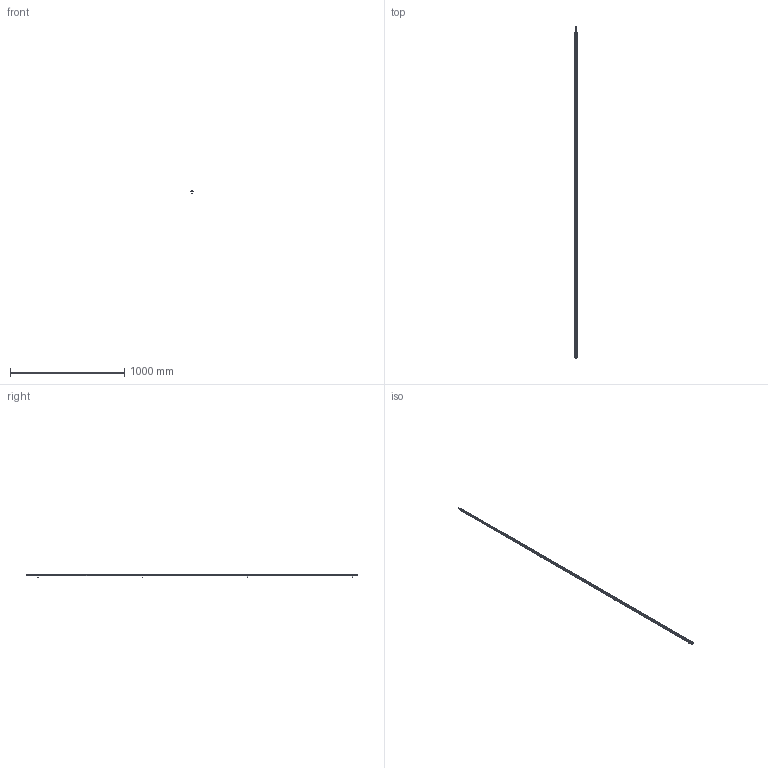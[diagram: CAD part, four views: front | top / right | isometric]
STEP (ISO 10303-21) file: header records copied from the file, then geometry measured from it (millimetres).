
FILE_DESCRIPTION (( 'STEP AP214' ), '1' );
FILE_NAME ('ILGA-B-K2-2850mm.STEP', '2026-04-24T23:06:02', ( '' ), ( '' ), 'SwSTEP 2.0', 'SolidWorks 2025', '' );
FILE_SCHEMA (( 'AUTOMOTIVE_DESIGN' ));
Length unit declared in the file: millimetre
Products named in the file (1): ILGA-B-K2-2850mm
Bounding box: 22.4 x 2904.5 x 25.7 mm (x, y, z)
Surface area: 387428.9 mm2 (no closed solid volume)
Topology: 0 solids, 17 shells, 975 faces, 2532 edges, 1571 vertices
Faces by surface type: cylinder 403, plane 364, cone 86, bspline 56, torus 50, sphere 16
Entity records: 42888 total; most frequent: CARTESIAN_POINT 8692, ORIENTED_EDGE 4945, DIRECTION 4896, EDGE_CURVE 2480, AXIS2_PLACEMENT_3D 1879, VERTEX_POINT 1571, LINE 1138, VECTOR 1138
